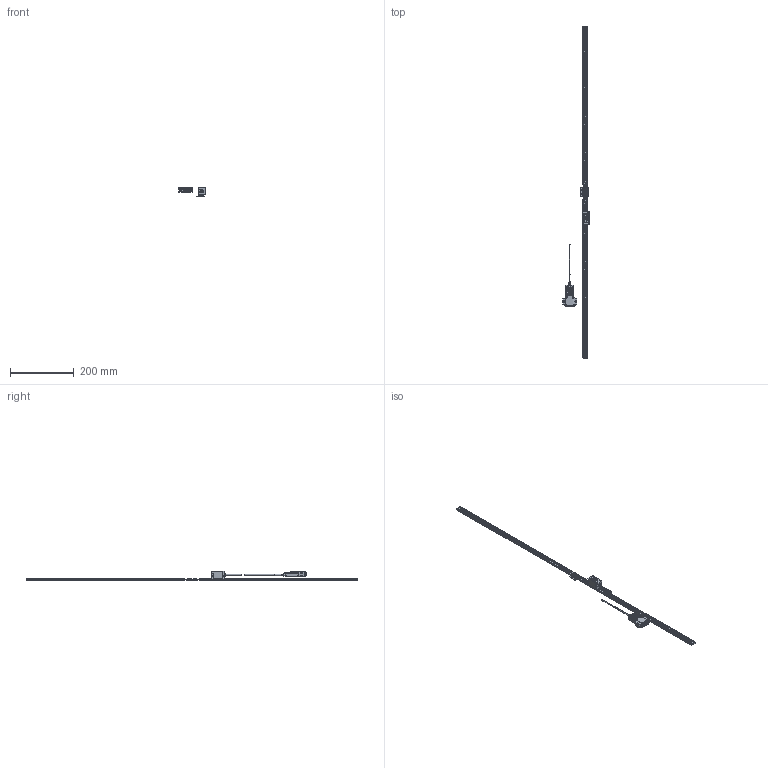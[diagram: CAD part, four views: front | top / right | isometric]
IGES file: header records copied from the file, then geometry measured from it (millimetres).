
Start section: Elysium IGES Interface
Global section: file name: 92HK:\20_商品設計\設計１課\個人\山室\05_作業中雑務\20220810_ST1300 3D HP掲載\ST1300-1000F_G.igs; native system: Creo Elements/Direct Modeling 18.1I  13-Aug-2016; preprocessor: Creo Element/Direct IGES_3D V2.2; author: Unknown; organization: Unknown; date: 20220816.102333; units: millimetre
Bounding box: 83 x 1040 x 30.1 mm (x, y, z)
Volume: 105043.3 mm3; surface area: 65921.6 mm2
Topology: 3 solids, 6 shells, 3502 faces, 9638 edges, 6286 vertices
Faces by surface type: bspline 3502
